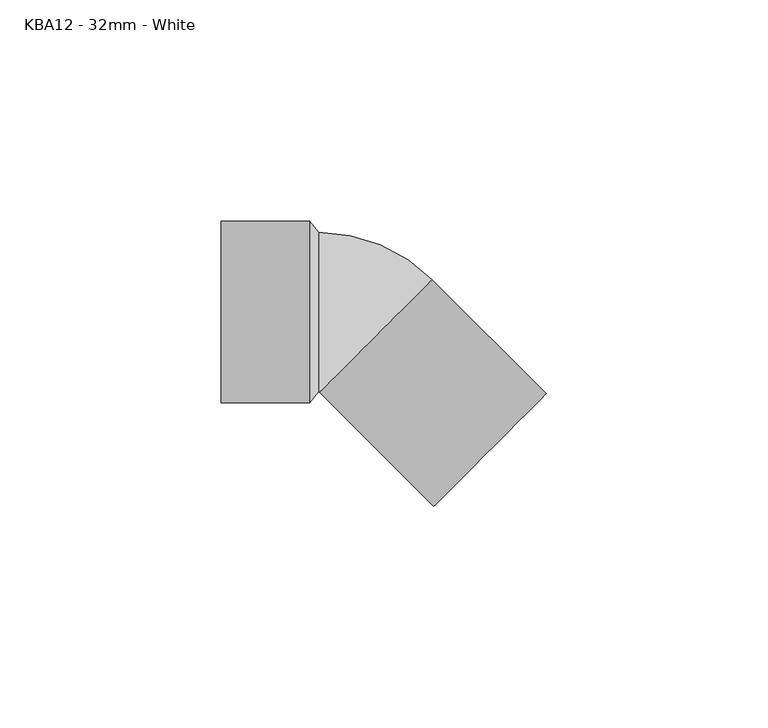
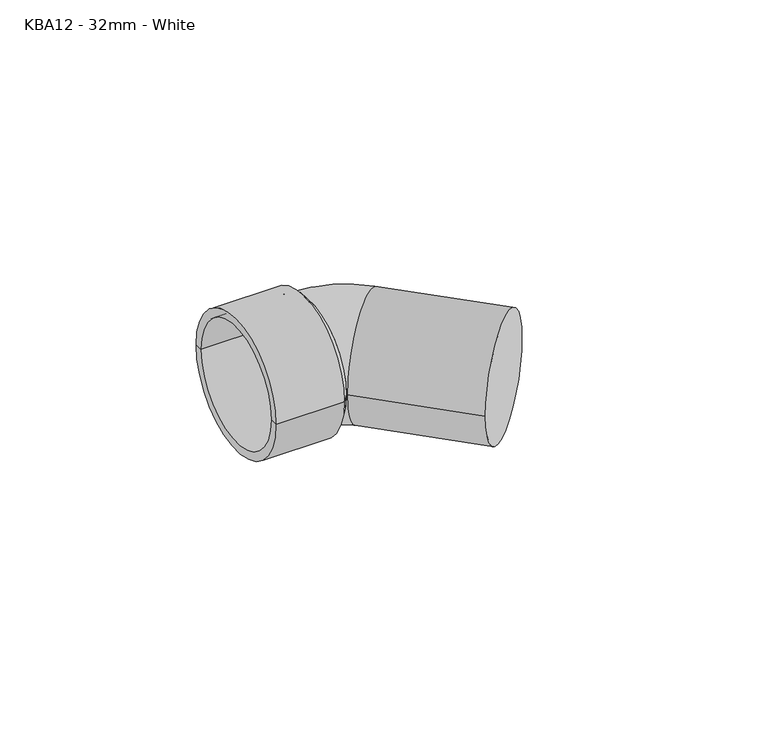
"""IFC4 building model written with IfcOpenShell, lengths in millimetres: pipe fitting geometry, MarleyPlumbingAndDrainage_PipeFitting_SpigotBend45 : KBA12 - 32mm - White."""

import ifcopenshell
import ifcopenshell.guid

model = None  # the IFC model being written
_history = None  # IfcOwnerHistory: only IFC2X3 demands one
_inside = {}  # id of a spatial element -> (the spatial element, [elements in it])
_under = {}  # id of a project, library or spatial element -> (it, [spatial elements below it])
_declared = {}  # id of a project -> (the project, [libraries it declares])
_typed = {}  # id of a type object -> (the type object, [elements of that type])
_made_of = {}  # id of a material, layer set ... -> (it, [elements and type objects made of it])


def new_model(schema):
    """Start an empty IFC model of exactly this schema.

    Asked for "IFC4X3", IfcOpenShell would pick the latest addendum, in which some entities
    have other attributes; the version numbers below select the first issue.
    IFC2X3 requires an IfcOwnerHistory on every rooted entity: one is made here for all.
    """
    global model, _history
    if schema == "IFC4X3":
        model = ifcopenshell.file(schema_version=(4, 3, 0, 0))
    else:
        model = ifcopenshell.file(schema=schema)
    _inside.clear()
    _under.clear()
    _declared.clear()
    _typed.clear()
    _made_of.clear()
    _history = None
    if model.schema == "IFC2X3":
        org = make("IfcOrganization", Name="unknown")
        user = make(
            "IfcPersonAndOrganization",
            ThePerson=make("IfcPerson", FamilyName="unknown"),
            TheOrganization=org,
        )
        app = make(
            "IfcApplication",
            ApplicationDeveloper=org,
            Version="unknown",
            ApplicationFullName="unknown",
            ApplicationIdentifier="unknown",
        )
        _history = make(
            "IfcOwnerHistory",
            OwningUser=user,
            OwningApplication=app,
            ChangeAction="ADDED",
            CreationDate=0,
        )
    return model


def make(cls, **values):
    """One entity of the class cls with the attributes given. An attribute that is None is left unset."""
    return model.create_entity(
        cls, **{name: value for name, value in values.items() if value is not None}
    )


def rooted(cls, **values):
    """An entity with a GlobalId (a new one), such as an element, a storey or a relation."""
    return make(cls, GlobalId=ifcopenshell.guid.new(), OwnerHistory=_history, **values)


def si_unit(unit_type, name, prefix=None):
    """IfcSIUnit, for example si_unit("LENGTHUNIT", "METRE", prefix="MILLI")."""
    return make("IfcSIUnit", UnitType=unit_type, Prefix=prefix, Name=name)


def assignment(units):
    """IfcUnitAssignment: the units of a project."""
    return None if units is None else make("IfcUnitAssignment", Units=units)


def point(xyz):
    """IfcCartesianPoint."""
    return None if xyz is None else make("IfcCartesianPoint", Coordinates=xyz)


def direction(xyz):
    """IfcDirection."""
    return None if xyz is None else make("IfcDirection", DirectionRatios=xyz)


def frame(location, z_axis=None, x_axis=None):
    """IfcAxis2Placement3D, a coordinate frame: its origin and axes. An axis left out is left unset."""
    return make(
        "IfcAxis2Placement3D",
        Location=point(location),
        Axis=direction(z_axis),
        RefDirection=direction(x_axis),
    )


def origin():
    """The frame at (0, 0, 0) with its axes left unset."""
    return frame((0.0, 0.0, 0.0))


def place(relative_to, where):
    """IfcLocalPlacement: puts the frame where relative to a parent placement (None: the world)."""
    return make(
        "IfcLocalPlacement", PlacementRelTo=relative_to, RelativePlacement=where
    )


def context(
    kind, dimensions, precision=None, world=None, true_north=None, identifier=None
):
    """IfcGeometricRepresentationContext, for example the 3D "Model" context."""
    return make(
        "IfcGeometricRepresentationContext",
        ContextIdentifier=identifier,
        ContextType=kind,
        CoordinateSpaceDimension=dimensions,
        Precision=precision,
        WorldCoordinateSystem=world,
        TrueNorth=true_north,
    )


def project(units=None, contexts=None):
    """IfcProject with its units and contexts."""
    return rooted(
        "IfcProject",
        Name="project",
        RepresentationContexts=contexts,
        UnitsInContext=assignment(units),
    )


def spatial(cls, under=None, at=None, **own):
    """A site, building, storey or space (cls), placed at a placement, below another one or the project."""
    s = rooted(cls, ObjectPlacement=at, **own)
    if under is not None:
        _under.setdefault(under.id(), (under, []))[1].append(s)
    return s


def polyline(points):
    """IfcPolyline through the points."""
    return make("IfcPolyline", Points=[point(p) for p in points])


def circle_curve(where, radius):
    """IfcCircle in the frame where."""
    return make("IfcCircle", Position=where, Radius=radius)


def ellipse_curve(where, semi_axis1, semi_axis2):
    """IfcEllipse in the frame where."""
    return make(
        "IfcEllipse", Position=where, SemiAxis1=semi_axis1, SemiAxis2=semi_axis2
    )


def trimmed(basis, trim1, trim2, sense, master):
    """IfcTrimmedCurve: the piece of a basis curve between two trims."""
    return make(
        "IfcTrimmedCurve",
        BasisCurve=basis,
        Trim1=trim1,
        Trim2=trim2,
        SenseAgreement=sense,
        MasterRepresentation=master,
    )


def shape(context_of_items, identifier, shape_type, items):
    """IfcShapeRepresentation: the items that make up one representation, for example the "Body"."""
    return make(
        "IfcShapeRepresentation",
        ContextOfItems=context_of_items,
        RepresentationIdentifier=identifier,
        RepresentationType=shape_type,
        Items=items,
    )


def source(mapping_origin, context_of_items, identifier, shape_type, items):
    """IfcRepresentationMap: a shape defined once, which mapped items show again and again."""
    return make(
        "IfcRepresentationMap",
        MappingOrigin=mapping_origin,
        MappedRepresentation=shape(context_of_items, identifier, shape_type, items),
    )


def transform(
    local_origin,
    x_axis=None,
    y_axis=None,
    z_axis=None,
    scale=None,
    scale2=None,
    scale3=None,
    uniform=True,
):
    """IfcCartesianTransformationOperator3D, or its non-uniform kind. x_axis, y_axis, z_axis: its Axis1, 2, 3."""
    if uniform:
        return make(
            "IfcCartesianTransformationOperator3D",
            Axis1=direction(x_axis),
            Axis2=direction(y_axis),
            LocalOrigin=point(local_origin),
            Scale=scale,
            Axis3=direction(z_axis),
        )
    return make(
        "IfcCartesianTransformationOperator3DnonUniform",
        Axis1=direction(x_axis),
        Axis2=direction(y_axis),
        LocalOrigin=point(local_origin),
        Scale=scale,
        Axis3=direction(z_axis),
        Scale2=scale2,
        Scale3=scale3,
    )


def mapped(mapping_source, mapping_target):
    """IfcMappedItem: shows the shape of a source again, moved by a transform."""
    return make(
        "IfcMappedItem", MappingSource=mapping_source, MappingTarget=mapping_target
    )


def made_of(thing, what):
    """Note that an element or type object is made of a material, layer set ...; save() writes the relation."""
    if what is not None:
        _made_of.setdefault(what.id(), (what, []))[1].append(thing)
    return thing


def element(
    cls,
    number,
    at=None,
    inside=None,
    cuts=None,
    type_object=None,
    material=None,
    context=None,
    identifier="Body",
    shape_type=None,
    held_by="IfcProductDefinitionShape",
    body=None,
    shapes=None,
    **own,
):
    """One element of the class cls, such as IfcWall. Its Tag is "e" and its number.

    at: its placement. inside: the storey or other place that contains it. cuts: it is an
    opening in that element (IfcRelVoidsElement). A single representation is given by context,
    identifier, shape_type and body (its items); several are given by shapes. held_by: the class
    of the entity that holds the representations. save() writes the other relations.
    """
    e = rooted(cls, Tag="e%d" % number, ObjectPlacement=at, **own)
    if body is not None:
        shapes = [shape(context, identifier, shape_type, body)]
    if shapes is not None:
        e.Representation = make(held_by, Representations=shapes)
    if inside is not None:
        _inside.setdefault(inside.id(), (inside, []))[1].append(e)
    if cuts is not None:
        rooted(
            "IfcRelVoidsElement", RelatingBuildingElement=cuts, RelatedOpeningElement=e
        )
    if type_object is not None:
        _typed.setdefault(type_object.id(), (type_object, []))[1].append(e)
    return made_of(e, material)


def aggregate(whole, parts):
    """IfcRelAggregates: a whole, such as a stair, and the parts it consists of."""
    return rooted("IfcRelAggregates", RelatingObject=whole, RelatedObjects=parts)


def save(model, path):
    """Write the relations noted so far, then the file.

    IfcRelAggregates (storeys below a building ...), IfcRelContainedInSpatialStructure (elements
    in a storey), IfcRelDefinesByType, IfcRelAssociatesMaterial and IfcRelDeclares: one each for
    every whole, place, type object, material and project.
    """
    for whole, parts in _under.values():
        aggregate(whole, parts)
    for where, things in _inside.values():
        rooted(
            "IfcRelContainedInSpatialStructure",
            RelatedElements=things,
            RelatingStructure=where,
        )
    for kind, things in _typed.values():
        rooted("IfcRelDefinesByType", RelatedObjects=things, RelatingType=kind)
    for what, things in _made_of.values():
        rooted("IfcRelAssociatesMaterial", RelatedObjects=things, RelatingMaterial=what)
    for by, libraries in _declared.values():
        rooted("IfcRelDeclares", RelatingContext=by, RelatedDefinitions=libraries)
    model.write(path)


def plane_surface(at):
    """IfcPlane: the flat surface through the origin of the frame at, square to its z axis."""
    return make("IfcPlane", Position=at)


def cylinder_surface(at, radius):
    """IfcCylindricalSurface: all points at the distance radius from the z axis of the frame at."""
    return make("IfcCylindricalSurface", Position=at, Radius=radius)


def revolved_surface(curve, axis_point, axis_direction):
    """IfcSurfaceOfRevolution: the curve turned about the line through axis_point along axis_direction."""
    return make(
        "IfcSurfaceOfRevolution",
        SweptCurve=make("IfcArbitraryOpenProfileDef", ProfileType="CURVE", Curve=curve),
        AxisPosition=make("IfcAxis1Placement", Location=point(axis_point), Axis=direction(axis_direction)),
    )


def advanced_brep(points, edges, surfaces, faces):
    """IfcAdvancedBrep: a solid bounded by faces that lie on surfaces and meet in shared edges.

    An edge is (start, end): straight between two places in points (the first is 0);
    or (start, end, curve); or (start, end, curve, False) where it runs against its curve.
    A face is (place in surfaces, loops), or (place, loops, False) where it looks against
    its surface's normal. A loop lists edges by number (the first is 1), with a minus sign
    where the edge is run from its end to its start. The first loop is the outer one.
    """
    corners = [point(p) for p in points]
    vertices = [make("IfcVertexPoint", VertexGeometry=c) for c in corners]
    made = []
    for start, end, *more in edges:
        made.append(
            make(
                "IfcEdgeCurve",
                EdgeStart=vertices[start],
                EdgeEnd=vertices[end],
                EdgeGeometry=more[0] if more else make("IfcPolyline", Points=[corners[start], corners[end]]),
                SameSense=more[1] if len(more) > 1 else True,
            )
        )
    hull = []
    for where, loops, *sense in faces:
        bounds = []
        for j, loop in enumerate(loops):
            ring = [make("IfcOrientedEdge", EdgeElement=made[abs(k) - 1], Orientation=k > 0) for k in loop]
            bounds.append(
                make(
                    "IfcFaceOuterBound" if j == 0 else "IfcFaceBound",
                    Bound=make("IfcEdgeLoop", EdgeList=ring),
                    Orientation=True,
                )
            )
        hull.append(make("IfcAdvancedFace", Bounds=bounds, FaceSurface=surfaces[where], SameSense=sense[0] if sense else True))
    return make("IfcAdvancedBrep", Outer=make("IfcClosedShell", CfsFaces=hull))


def kba12_32mm_white_19b2c38b(model_context):
    return source(origin(), model_context, "Body", "AdvancedBrep", [
        advanced_brep(
        [(-44.3468963, -20.5, 0.0), (-24.3468963, -20.5, 0.0), (-24.3468963, 20.5, 0.0), (-44.3468963, 20.5, 0.0), (-44.3468963, -18.0, 0.0), (-44.3468963, 18.0, 0.0), (-24.3468963, -18.0, 0.0), (-24.3468963, 18.0, 0.0), (-24.3468963, 0.0, 0.0), (-22.3468963, -18.0, 0.0), (-22.3468963, 0.0, 0.0), (-22.3468963, 18.0, 0.0)],
        [
            (0, 1),
            (1, 2, circle_curve(frame((-24.3468963, 0.0, 0.0), z_axis=(-1.0, 0.0, 0.0), x_axis=(0.0, 1.0, 0.0)), 20.5)),
            (2, 3),
            (3, 0, circle_curve(frame((-44.3468963, 0.0, 0.0), z_axis=(1.0, 0.0, 0.0), x_axis=(0.0, 1.0, 0.0)), 20.5)),
            (2, 1, circle_curve(frame((-24.3468963, 0.0, 0.0), z_axis=(-1.0, 0.0, 0.0), x_axis=(0.0, 1.0, 0.0)), 20.5)),
            (0, 3, circle_curve(frame((-44.3468963, 0.0, 0.0), z_axis=(1.0, 0.0, 0.0), x_axis=(0.0, 1.0, 0.0)), 20.5)),
            (4, 0),
            (3, 5),
            (5, 4, circle_curve(frame((-44.3468963, 0.0, 0.0), z_axis=(1.0, 0.0, 0.0), x_axis=(0.0, 1.0, 0.0)), 18.0)),
            (4, 5, circle_curve(frame((-44.3468963, 0.0, 0.0), z_axis=(1.0, 0.0, 0.0), x_axis=(0.0, 1.0, 0.0)), 18.0)),
            (6, 4),
            (5, 7),
            (7, 6, circle_curve(frame((-24.3468963, 0.0, 0.0), z_axis=(1.0, 0.0, 0.0), x_axis=(0.0, 1.0, 0.0)), 18.0)),
            (6, 7, circle_curve(frame((-24.3468963, 0.0, 0.0), z_axis=(1.0, 0.0, 0.0), x_axis=(0.0, 1.0, 0.0)), 18.0)),
            (8, 6),
            (7, 8),
            (9, 10),
            (10, 11),
            (11, 9, circle_curve(frame((-22.3468963, 0.0, 0.0), z_axis=(1.0, 0.0, 0.0), x_axis=(0.0, 1.0, 0.0)), 18.0)),
            (9, 11, circle_curve(frame((-22.3468963, 0.0, 0.0), z_axis=(1.0, 0.0, 0.0), x_axis=(0.0, 1.0, 0.0)), 18.0)),
            (1, 9),
            (11, 2),
        ],
        [
            cylinder_surface(frame((-28.0046875, 0.0, 0.0), z_axis=(-1.0, 0.0, 0.0), x_axis=(0.0, 1.0, 0.0)), 20.5),
            plane_surface(frame((-44.3468963, 0.0, 0.0), z_axis=(-1.0, 0.0, 0.0), x_axis=(0.0, 1.0, 0.0))),
            revolved_surface(polyline([(-44.3468963, 18.0, 0.0), (-24.3468963, 18.0, 0.0)]), (-28.0046875, 0.0, 0.0), (-1.0, 0.0, 0.0)),
            plane_surface(frame((-24.3468963, 0.0, 0.0), z_axis=(-1.0, 0.0, 0.0), x_axis=(0.0, 1.0, 0.0))),
            plane_surface(frame((-22.3468963, 0.0, 0.0), z_axis=(1.0, 0.0, 0.0), x_axis=(0.0, 1.0, 0.0))),
            revolved_surface(polyline([(-22.3468963, 18.0, 0.0), (-24.3468963, 20.5, 0.0)]), (-28.0046875, 0.0, 0.0), (-1.0, 0.0, 0.0)),
        ],
        [
            (0, [[1, 2, 3, 4]]),
            (0, [[-3, 5, -1, 6]]),
            (1, [[7, -4, 8, 9]]),
            (1, [[-8, -6, -7, 10]]),
            (2, [[11, -9, 12, 13]]),
            (2, [[-12, -10, -11, 14]]),
            (3, [[15, -13, 16]]),
            (3, [[-16, -14, -15]]),
            (4, [[17, 18, 19]]),
            (4, [[-18, -17, 20]]),
            (5, [[21, -19, 22, -2]]),
            (5, [[-22, -20, -21, -5]]),
        ],
    ),
        advanced_brep(
        [(-22.3468963, 18.0, 0.0), (-22.3468963, -18.0, 0.0), (-22.1347642, -18.087868, 0.0), (3.3210799, 7.3679762, 0.0), (29.1304774, -18.4414214, 0.0), (3.6746333, -43.8972655, 0.0)],
        [
            (0, 1, circle_curve(frame((-22.3468963, 0.0, 0.0), z_axis=(-1.0, 0.0, 0.0), x_axis=(0.0, -1.0, 0.0)), 18.0)),
            (1, 0, circle_curve(frame((-22.3468963, 0.0, 0.0), z_axis=(-1.0, 0.0, 0.0), x_axis=(0.0, -1.0, 0.0)), 18.0)),
            (2, 3, circle_curve(frame((-9.4068422, -5.3599459, 0.0), z_axis=(-0.7071067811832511, 0.7071067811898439, 0.0), x_axis=(-0.7071067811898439, -0.7071067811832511, 0.0)), 18.0)),
            (3, 0, circle_curve(frame((-22.3468963, -18.3, 0.0), z_axis=(0.0, 0.0, 1.0), x_axis=(0.0, 1.0, 0.0)), 36.3)),
            (1, 2, circle_curve(frame((-22.3468963, -18.3, 0.0), z_axis=(0.0, 0.0, -1.0), x_axis=(0.0, 1.0, 0.0)), 0.3)),
            (3, 2, circle_curve(frame((-9.4068422, -5.3599459, 0.0), z_axis=(-0.7071067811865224, 0.7071067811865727, 0.0), x_axis=(-0.7071067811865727, -0.7071067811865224, 0.0)), 18.0)),
            (4, 5, circle_curve(frame((16.4025553, -31.1693434, 0.0), z_axis=(0.7071067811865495, -0.7071067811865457, 0.0), x_axis=(-0.7071067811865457, -0.7071067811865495, 0.0)), 18.0)),
            (5, 4, circle_curve(frame((16.4025553, -31.1693434, 0.0), z_axis=(0.7071067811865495, -0.7071067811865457, 0.0), x_axis=(-0.7071067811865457, -0.7071067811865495, 0.0)), 18.0)),
            (2, 5),
            (4, 3),
        ],
        [
            plane_surface(frame((-22.3468963, 0.0, 0.0), z_axis=(-1.0, 0.0, 0.0), x_axis=(0.0, 0.0, 1.0))),
            revolved_surface(trimmed(ellipse_curve(frame((-22.3468963, 0.0, 0.0), z_axis=(1.0, 0.0, 0.0), x_axis=(0.0, -1.0, 0.0)), 18.0, 18.0), [point((-22.3468963, 18.0, 0.0))], [point((-22.3468963, -18.0, 0.0))], True, "CARTESIAN"), (-22.3468963, -18.3, 0.0), (0.0, 0.0, 1.0)),
            revolved_surface(trimmed(ellipse_curve(frame((-22.3468963, 0.0, 0.0), z_axis=(1.0, 0.0, 0.0), x_axis=(0.0, -1.0, 0.0)), 18.0, 18.0), [point((-22.3468963, -18.0, 0.0))], [point((-22.3468963, 18.0, 0.0))], True, "CARTESIAN"), (-22.3468963, -18.3, 0.0), (0.0, 0.0, 1.0)),
            plane_surface(frame((16.4025553, -31.1693434, 0.0), z_axis=(0.7071067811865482, -0.7071067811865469, 0.0), x_axis=(0.0, 0.0, 1.0))),
            cylinder_surface(frame((-9.4068422, -5.3599459, 0.0), z_axis=(-0.7071067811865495, 0.7071067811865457, 0.0), x_axis=(-0.7071067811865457, -0.7071067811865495, 0.0)), 18.0),
        ],
        [
            (0, [[1, 2]]),
            (1, [[3, 4, -2, 5]]),
            (2, [[6, -5, -1, -4]]),
            (3, [[7, 8]]),
            (4, [[9, -7, 10, -3]]),
            (4, [[-10, -8, -9, -6]]),
        ],
    ),
    ])


if __name__ == "__main__":
    model = new_model("IFC4")
    model_context = context("Model", 3, world=origin())
    ifc_project = project(units=[si_unit("LENGTHUNIT", "METRE", prefix="MILLI")], contexts=[model_context])
    site = spatial("IfcSite", under=ifc_project)
    building = spatial("IfcBuilding", under=site)
    placement = place(None, origin())
    kba12_32mm_white_shape = kba12_32mm_white_19b2c38b(model_context)
    element("IfcPipeFitting", 1, ObjectType="MarleyPlumbingAndDrainage_PipeFitting_SpigotBend45 : KBA12 - 32mm - White", at=placement, inside=building, context=model_context, shape_type="MappedRepresentation", body=[
        mapped(kba12_32mm_white_shape, transform((0.0, 0.0, 0.0), x_axis=(1.0, 0.0, 0.0), y_axis=(0.0, 1.0, 0.0), z_axis=(0.0, 0.0, 1.0))),
    ])
    save(model, "model.ifc")
